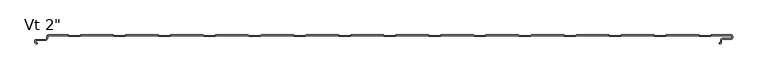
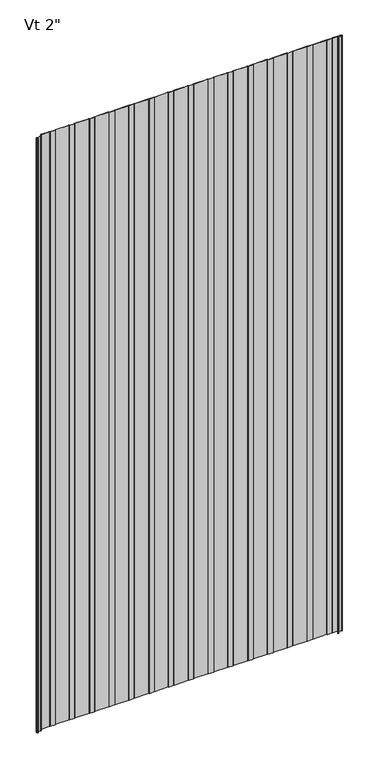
"""IFC4 building model written with IfcOpenShell, lengths in millimetres: plate geometry."""

from ifc_helpers import new_model, si_unit, frame, origin, place, context, project, spatial, polyline, circle_curve, source, transform, mapped, element, save
from ifc_brep_helpers import plane_surface, cylinder_surface, revolved_surface, advanced_brep


def plate_6ea44dff(model_context):
    return source(origin(), model_context, "Body", "AdvancedBrep", [
        advanced_brep(
        [(390.6883592, 0.0, 2400.0), (389.6158343, -1.1911595, 2400.0), (370.7177183, -1.1911595, 2400.0), (369.6451934, 0.0, 2400.0), (315.0657389, 0.0, 2400.0), (313.9932141, -1.1911595, 2400.0), (295.095098, -1.1911595, 2400.0), (294.0225732, 0.0, 2400.0), (239.4431186, 0.0, 2400.0), (238.3705938, -1.1911595, 2400.0), (219.4724778, -1.1911595, 2400.0), (218.3999529, 0.0, 2400.0), (163.8204984, 0.0, 2400.0), (162.7479735, -1.1911595, 2400.0), (143.8498575, -1.1911595, 2400.0), (142.7773327, 0.0, 2400.0), (88.1978781, 0.0, 2400.0), (87.1253533, -1.1911595, 2400.0), (68.2272372, -1.1911595, 2400.0), (67.1547124, 0.0, 2400.0), (12.5752578, 0.0, 2400.0), (11.502733, -1.1911595, 2400.0), (-7.395383, -1.1911595, 2400.0), (-8.4679079, 0.0, 2400.0), (-63.0473624, 0.0, 2400.0), (-64.1198873, -1.1911595, 2400.0), (-83.0180033, -1.1911595, 2400.0), (-84.0905281, 0.0, 2400.0), (-138.6699827, 0.0, 2400.0), (-139.7425075, -1.1911595, 2400.0), (-158.6406236, -1.1911595, 2400.0), (-159.7131484, 0.0, 2400.0), (-214.2926029, 0.0, 2400.0), (-215.3651278, -1.1911595, 2400.0), (-234.2632438, -1.1911595, 2400.0), (-235.3357687, 0.0, 2400.0), (-289.9152232, 0.0, 2400.0), (-290.987748, -1.1911595, 2400.0), (-309.8858641, -1.1911595, 2400.0), (-310.9583889, 0.0, 2400.0), (-365.5378435, 0.0, 2400.0), (-366.6103683, -1.1911595, 2400.0), (-385.5084844, -1.1911595, 2400.0), (-386.5810092, 0.0, 2400.0), (-441.1604637, 0.0, 2400.0), (-442.2329886, -1.1911595, 2400.0), (-461.1311046, -1.1911595, 2400.0), (-462.2036295, 0.0, 2400.0), (-516.783084, 0.0, 2400.0), (-517.8556088, -1.1911595, 2400.0), (-536.7537249, -1.1911595, 2400.0), (-537.8262497, 0.0, 2400.0), (-570.4352807, 0.0, 2400.0), (-573.4125474, -2.9772904, 2400.0), (-573.4125474, -5.2691742, 2400.0), (-576.3898159, -8.2464427, 2400.0), (-591.9862419, -8.2464427, 2400.0), (-593.5741185, -9.8343193, 2400.0), (-593.5741185, -12.905868, 2400.0), (-591.9862419, -14.4937445, 2400.0), (-589.6312064, -14.4937445, 2400.0), (-589.6312064, -13.4937445, 2400.0), (-591.9862419, -13.4937445, 2400.0), (-592.5741185, -12.905868, 2400.0), (-592.5741185, -9.8343193, 2400.0), (-591.9862419, -9.2464427, 2400.0), (-576.3898159, -9.2464427, 2400.0), (-572.4125474, -5.2691742, 2400.0), (-572.4125474, -2.9772904, 2400.0), (-570.43528, -1.0000218, 2400.0), (-538.268689, -1.0, 2400.0), (-537.1961642, -2.1911595, 2400.0), (-517.4131695, -2.1911595, 2400.0), (-516.3406447, -1.0, 2400.0), (-462.6460688, -1.0, 2400.0), (-461.5735439, -2.1911595, 2400.0), (-441.7905493, -2.1911595, 2400.0), (-440.7180244, -1.0, 2400.0), (-387.0234485, -1.0, 2400.0), (-385.9509237, -2.1911595, 2400.0), (-366.167929, -2.1911595, 2400.0), (-365.0954042, -1.0, 2400.0), (-311.4008282, -1.0, 2400.0), (-310.3283034, -2.1911595, 2400.0), (-290.5453087, -2.1911595, 2400.0), (-289.4727839, -1.0, 2400.0), (-235.778208, -1.0, 2400.0), (-234.7056831, -2.1911595, 2400.0), (-214.9226885, -2.1911595, 2400.0), (-213.8501636, -1.0, 2400.0), (-160.1555877, -1.0, 2400.0), (-159.0830629, -2.1911595, 2400.0), (-139.3000682, -2.1911595, 2400.0), (-138.2275434, -1.0, 2400.0), (-84.5329675, -1.0, 2400.0), (-83.4604426, -2.1911595, 2400.0), (-63.6774479, -2.1911595, 2400.0), (-62.6049231, -1.0, 2400.0), (-8.9103472, -1.0, 2400.0), (-7.8378224, -2.1911595, 2400.0), (11.9451723, -2.1911595, 2400.0), (13.0176972, -1.0, 2400.0), (66.7122731, -1.0, 2400.0), (67.7847979, -2.1911595, 2400.0), (87.5677926, -2.1911595, 2400.0), (88.6403174, -1.0, 2400.0), (142.3348933, -1.0, 2400.0), (143.4074182, -2.1911595, 2400.0), (163.1904129, -2.1911595, 2400.0), (164.2629377, -1.0, 2400.0), (217.9575136, -1.0, 2400.0), (219.0300384, -2.1911595, 2400.0), (238.8130331, -2.1911595, 2400.0), (239.885558, -1.0, 2400.0), (293.5801339, -1.0, 2400.0), (294.6526587, -2.1911595, 2400.0), (314.4356534, -2.1911595, 2400.0), (315.5081782, -1.0, 2400.0), (369.2027541, -1.0, 2400.0), (370.275279, -2.1911595, 2400.0), (390.0582736, -2.1911595, 2400.0), (391.1307985, -1.0, 2400.0), (444.8253744, -1.0, 2400.0), (445.8978992, -2.1911595, 2400.0), (465.6808939, -2.1911595, 2400.0), (466.7534187, -1.0, 2400.0), (520.4479947, -1.0, 2400.0), (521.5205195, -2.1911595, 2400.0), (541.3035142, -2.1911595, 2400.0), (542.3760351, -1.0000044, 2400.0), (574.5475652, -1.0000044, 2400.0), (576.5248337, -2.9772729, 2400.0), (576.5248337, -4.0193715, 2400.0), (574.5475652, -5.99664, 2400.0), (560.3591801, -5.99664, 2400.0), (557.7713036, -8.5845166, 2400.0), (557.7713037, -12.9049347, 2400.0), (557.1628365, -13.4939282, 2400.0), (554.7857432, -13.4939282, 2400.0), (554.7857432, -14.4934021, 2400.0), (557.1304042, -14.4934021, 2400.0), (558.7713037, -12.9049347, 2400.0), (558.7713036, -8.5845166, 2400.0), (560.3591801, -6.99664, 2400.0), (574.5475652, -6.99664, 2400.0), (577.5248337, -4.0193715, 2400.0), (577.5248337, -2.9772729, 2400.0), (574.5475652, -4.4e-06, 2400.0), (541.9335958, -4.4e-06, 2400.0), (540.8610749, -1.1911595, 2400.0), (521.9629588, -1.1911595, 2400.0), (520.890434, 0.0, 2400.0), (466.3109794, 0.0, 2400.0), (465.2384546, -1.1911595, 2400.0), (446.3403385, -1.1911595, 2400.0), (445.2678137, 0.0, 2400.0), (390.6883592, 0.0, 0.0), (445.2678137, 0.0, 0.0), (446.3403385, -1.1911595, 0.0), (465.2384546, -1.1911595, 0.0), (466.3109794, 0.0, 0.0), (520.890434, 0.0, 0.0), (521.9629588, -1.1911595, 0.0), (540.8610749, -1.1911595, 0.0), (541.9335958, -4.4e-06, 0.0), (574.5475652, -4.4e-06, 0.0), (577.5248337, -2.9772729, 0.0), (577.5248337, -4.0193715, 0.0), (574.5475652, -6.99664, 0.0), (560.3591801, -6.99664, 0.0), (558.7713036, -8.5845166, 0.0), (558.7713036, -12.9049347, 0.0), (557.1304042, -14.4934021, 0.0), (554.7857432, -14.4934021, 0.0), (554.7857432, -13.4939282, 0.0), (557.1628365, -13.4939282, 0.0), (557.7713037, -12.9049347, 0.0), (557.7713037, -8.5845166, 0.0), (560.3591801, -5.99664, 0.0), (574.5475652, -5.99664, 0.0), (576.5248337, -4.0193715, 0.0), (576.5248337, -2.9772729, 0.0), (574.5475652, -1.0000044, 0.0), (542.3760351, -1.0000044, 0.0), (541.3035142, -2.1911595, 0.0), (521.5205195, -2.1911595, 0.0), (520.4479947, -1.0, 0.0), (466.7534187, -1.0, 0.0), (465.6808939, -2.1911595, 0.0), (445.8978992, -2.1911595, 0.0), (444.8253744, -1.0, 0.0), (391.1307985, -1.0, 0.0), (390.0582736, -2.1911595, 0.0), (370.275279, -2.1911595, 0.0), (369.2027541, -1.0, 0.0), (315.5081782, -1.0, 0.0), (314.4356534, -2.1911595, 0.0), (294.6526587, -2.1911595, 0.0), (293.5801339, -1.0, 0.0), (239.885558, -1.0, 0.0), (238.8130331, -2.1911595, 0.0), (219.0300384, -2.1911595, 0.0), (217.9575136, -1.0, 0.0), (164.2629377, -1.0, 0.0), (163.1904129, -2.1911595, 0.0), (143.4074182, -2.1911595, 0.0), (142.3348933, -1.0, 0.0), (88.6403174, -1.0, 0.0), (87.5677926, -2.1911595, 0.0), (67.7847979, -2.1911595, 0.0), (66.7122731, -1.0, 0.0), (13.0176972, -1.0, 0.0), (11.9451723, -2.1911595, 0.0), (-7.8378224, -2.1911595, 0.0), (-8.9103472, -1.0, 0.0), (-62.6049231, -1.0, 0.0), (-63.6774479, -2.1911595, 0.0), (-83.4604426, -2.1911595, 0.0), (-84.5329675, -1.0, 0.0), (-138.2275434, -1.0, 0.0), (-139.3000682, -2.1911595, 0.0), (-159.0830629, -2.1911595, 0.0), (-160.1555877, -1.0, 0.0), (-213.8501636, -1.0, 0.0), (-214.9226885, -2.1911595, 0.0), (-234.7056831, -2.1911595, 0.0), (-235.778208, -1.0, 0.0), (-289.4727839, -1.0, 0.0), (-290.5453087, -2.1911595, 0.0), (-310.3283034, -2.1911595, 0.0), (-311.4008282, -1.0, 0.0), (-365.0954042, -1.0, 0.0), (-366.167929, -2.1911595, 0.0), (-385.9509237, -2.1911595, 0.0), (-387.0234485, -1.0, 0.0), (-440.7180244, -1.0, 0.0), (-441.7905493, -2.1911595, 0.0), (-461.5735439, -2.1911595, 0.0), (-462.6460688, -1.0, 0.0), (-516.3406447, -1.0, 0.0), (-517.4131695, -2.1911595, 0.0), (-537.1961642, -2.1911595, 0.0), (-538.268689, -1.0, 0.0), (-570.43528, -1.0, 0.0), (-572.4125474, -2.9772904, 0.0), (-572.4125474, -5.2691742, 0.0), (-576.3898159, -9.2464427, 0.0), (-591.9862419, -9.2464427, 0.0), (-592.5741185, -9.8343193, 0.0), (-592.5741185, -12.905868, 0.0), (-591.9862419, -13.4937445, 0.0), (-589.6312064, -13.4937445, 0.0), (-589.6312064, -14.4937445, 0.0), (-591.9862419, -14.4937445, 0.0), (-593.5741185, -12.905868, 0.0), (-593.5741185, -9.8343193, 0.0), (-591.9862419, -8.2464427, 0.0), (-576.3898159, -8.2464427, 0.0), (-573.4125474, -5.2691742, 0.0), (-573.4125474, -2.9772904, 0.0), (-570.4352807, -2.18e-05, 0.0), (-537.8262497, 0.0, 0.0), (-536.7537249, -1.1911595, 0.0), (-517.8556088, -1.1911595, 0.0), (-516.783084, 0.0, 0.0), (-462.2036295, 0.0, 0.0), (-461.1311046, -1.1911595, 0.0), (-442.2329886, -1.1911595, 0.0), (-441.1604637, 0.0, 0.0), (-386.5810092, 0.0, 0.0), (-385.5084844, -1.1911595, 0.0), (-366.6103683, -1.1911595, 0.0), (-365.5378435, 0.0, 0.0), (-310.9583889, 0.0, 0.0), (-309.8858641, -1.1911595, 0.0), (-290.987748, -1.1911595, 0.0), (-289.9152232, 0.0, 0.0), (-235.3357687, 0.0, 0.0), (-234.2632438, -1.1911595, 0.0), (-215.3651278, -1.1911595, 0.0), (-214.2926029, 0.0, 0.0), (-159.7131484, 0.0, 0.0), (-158.6406236, -1.1911595, 0.0), (-139.7425075, -1.1911595, 0.0), (-138.6699827, 0.0, 0.0), (-84.0905281, 0.0, 0.0), (-83.0180033, -1.1911595, 0.0), (-64.1198873, -1.1911595, 0.0), (-63.0473624, 0.0, 0.0), (-8.4679079, 0.0, 0.0), (-7.395383, -1.1911595, 0.0), (11.502733, -1.1911595, 0.0), (12.5752578, 0.0, 0.0), (67.1547124, 0.0, 0.0), (68.2272372, -1.1911595, 0.0), (87.1253533, -1.1911595, 0.0), (88.1978781, 0.0, 0.0), (142.7773327, 0.0, 0.0), (143.8498575, -1.1911595, 0.0), (162.7479735, -1.1911595, 0.0), (163.8204984, 0.0, 0.0), (218.3999529, 0.0, 0.0), (219.4724778, -1.1911595, 0.0), (238.3705938, -1.1911595, 0.0), (239.4431186, 0.0, 0.0), (294.0225732, 0.0, 0.0), (295.095098, -1.1911595, 0.0), (313.9932141, -1.1911595, 0.0), (315.0657389, 0.0, 0.0), (369.6451934, 0.0, 0.0), (370.7177183, -1.1911595, 0.0), (389.6158343, -1.1911595, 0.0)],
        [
            (0, 1),
            (1, 2),
            (2, 3),
            (3, 4),
            (4, 5),
            (5, 6),
            (6, 7),
            (7, 8),
            (8, 9),
            (9, 10),
            (10, 11),
            (11, 12),
            (12, 13),
            (13, 14),
            (14, 15),
            (15, 16),
            (16, 17),
            (17, 18),
            (18, 19),
            (19, 20),
            (20, 21),
            (21, 22),
            (22, 23),
            (23, 24),
            (24, 25),
            (25, 26),
            (26, 27),
            (27, 28),
            (28, 29),
            (29, 30),
            (30, 31),
            (31, 32),
            (32, 33),
            (33, 34),
            (34, 35),
            (35, 36),
            (36, 37),
            (37, 38),
            (38, 39),
            (39, 40),
            (40, 41),
            (41, 42),
            (42, 43),
            (43, 44),
            (44, 45),
            (45, 46),
            (46, 47),
            (47, 48),
            (48, 49),
            (49, 50),
            (50, 51),
            (51, 52),
            (52, 53, circle_curve(frame((-570.4352789, -2.9772904, 2400.0), z_axis=(0.0, 0.0, 1.0), x_axis=(0.0, 1.0, 0.0)), 2.9772685)),
            (53, 54),
            (54, 55, circle_curve(frame((-576.3898159, -5.2691742, 2400.0), z_axis=(0.0, 0.0, -1.0), x_axis=(0.0, 1.0, 0.0)), 2.9772685)),
            (55, 56),
            (56, 57, circle_curve(frame((-591.9862419, -9.8343193, 2400.0), z_axis=(0.0, 0.0, 1.0), x_axis=(0.0, 1.0, 0.0)), 1.5878765)),
            (57, 58),
            (58, 59, circle_curve(frame((-591.9862419, -12.905868, 2400.0), z_axis=(0.0, 0.0, 1.0), x_axis=(0.0, 1.0, 0.0)), 1.5878765)),
            (59, 60),
            (60, 61),
            (61, 62),
            (62, 63, circle_curve(frame((-591.9862419, -12.905868, 2400.0), z_axis=(0.0, 0.0, -1.0), x_axis=(0.0, 1.0, 0.0)), 0.5878765)),
            (63, 64),
            (64, 65, circle_curve(frame((-591.9862419, -9.8343193, 2400.0), z_axis=(0.0, 0.0, -1.0), x_axis=(0.0, 1.0, 0.0)), 0.5878765)),
            (65, 66),
            (66, 67, circle_curve(frame((-576.3898159, -5.2691742, 2400.0), z_axis=(0.0, 0.0, 1.0), x_axis=(0.0, 1.0, 0.0)), 3.9772685)),
            (67, 68),
            (68, 69, circle_curve(frame((-570.4352788, -2.9772904, 2400.0), z_axis=(0.0, 0.0, -1.0), x_axis=(0.0, 1.0, 0.0)), 1.9772685)),
            (69, 70),
            (70, 71),
            (71, 72),
            (72, 73),
            (73, 74),
            (74, 75),
            (75, 76),
            (76, 77),
            (77, 78),
            (78, 79),
            (79, 80),
            (80, 81),
            (81, 82),
            (82, 83),
            (83, 84),
            (84, 85),
            (85, 86),
            (86, 87),
            (87, 88),
            (88, 89),
            (89, 90),
            (90, 91),
            (91, 92),
            (92, 93),
            (93, 94),
            (94, 95),
            (95, 96),
            (96, 97),
            (97, 98),
            (98, 99),
            (99, 100),
            (100, 101),
            (101, 102),
            (102, 103),
            (103, 104),
            (104, 105),
            (105, 106),
            (106, 107),
            (107, 108),
            (108, 109),
            (109, 110),
            (110, 111),
            (111, 112),
            (112, 113),
            (113, 114),
            (114, 115),
            (115, 116),
            (116, 117),
            (117, 118),
            (118, 119),
            (119, 120),
            (120, 121),
            (121, 122),
            (122, 123),
            (123, 124),
            (124, 125),
            (125, 126),
            (126, 127),
            (127, 128),
            (128, 129),
            (129, 130),
            (130, 131, circle_curve(frame((574.5475652, -2.9772729, 2400.0), z_axis=(0.0, 0.0, -1.0), x_axis=(0.0, 1.0, 0.0)), 1.9772685)),
            (131, 132),
            (132, 133, circle_curve(frame((574.5475652, -4.0193715, 2400.0), z_axis=(0.0, 0.0, -1.0), x_axis=(0.0, 1.0, 0.0)), 1.9772685)),
            (133, 134),
            (134, 135, circle_curve(frame((560.3591801, -8.5845166, 2400.0), z_axis=(0.0, 0.0, 1.0), x_axis=(0.0, 1.0, 0.0)), 2.5878765)),
            (135, 136),
            (136, 137, circle_curve(frame((557.1819985, -12.9049347, 2400.0), z_axis=(0.0, 0.0, -1.0), x_axis=(0.0, 1.0, 0.0)), 0.5893052)),
            (137, 138),
            (138, 139),
            (139, 140),
            (140, 141, circle_curve(frame((557.1819985, -12.9049347, 2400.0), z_axis=(0.0, 0.0, 1.0), x_axis=(0.0, 1.0, 0.0)), 1.5893052)),
            (141, 142),
            (142, 143, circle_curve(frame((560.3591801, -8.5845166, 2400.0), z_axis=(0.0, 0.0, -1.0), x_axis=(0.0, 1.0, 0.0)), 1.5878765)),
            (143, 144),
            (144, 145, circle_curve(frame((574.5475652, -4.0193715, 2400.0), z_axis=(0.0, 0.0, 1.0), x_axis=(0.0, 1.0, 0.0)), 2.9772685)),
            (145, 146),
            (146, 147, circle_curve(frame((574.5475652, -2.9772729, 2400.0), z_axis=(0.0, 0.0, 1.0), x_axis=(0.0, 1.0, 0.0)), 2.9772685)),
            (147, 148),
            (148, 149),
            (149, 150),
            (150, 151),
            (151, 152),
            (152, 153),
            (153, 154),
            (154, 155),
            (155, 0),
            (156, 157),
            (157, 158),
            (158, 159),
            (159, 160),
            (160, 161),
            (161, 162),
            (162, 163),
            (163, 164),
            (164, 165),
            (165, 166, circle_curve(frame((574.5475652, -2.9772729, 0.0), z_axis=(0.0, 0.0, -1.0), x_axis=(0.0, 1.0, 0.0)), 2.9772685)),
            (166, 167),
            (167, 168, circle_curve(frame((574.5475652, -4.0193715, 0.0), z_axis=(0.0, 0.0, -1.0), x_axis=(0.0, 1.0, 0.0)), 2.9772685)),
            (168, 169),
            (169, 170, circle_curve(frame((560.3591801, -8.5845166, 0.0), z_axis=(0.0, 0.0, 1.0), x_axis=(0.0, 1.0, 0.0)), 1.5878765)),
            (170, 171),
            (171, 172, circle_curve(frame((557.1819985, -12.9049347, 0.0), z_axis=(0.0, 0.0, -1.0), x_axis=(0.0, 1.0, 0.0)), 1.5893052)),
            (172, 173),
            (173, 174),
            (174, 175),
            (175, 176, circle_curve(frame((557.1819985, -12.9049347, 0.0), z_axis=(0.0, 0.0, 1.0), x_axis=(0.0, 1.0, 0.0)), 0.5893052)),
            (176, 177),
            (177, 178, circle_curve(frame((560.3591801, -8.5845166, 0.0), z_axis=(0.0, 0.0, -1.0), x_axis=(0.0, 1.0, 0.0)), 2.5878765)),
            (178, 179),
            (179, 180, circle_curve(frame((574.5475652, -4.0193715, 0.0), z_axis=(0.0, 0.0, 1.0), x_axis=(0.0, 1.0, 0.0)), 1.9772685)),
            (180, 181),
            (181, 182, circle_curve(frame((574.5475652, -2.9772729, 0.0), z_axis=(0.0, 0.0, 1.0), x_axis=(0.0, 1.0, 0.0)), 1.9772685)),
            (182, 183),
            (183, 184),
            (184, 185),
            (185, 186),
            (186, 187),
            (187, 188),
            (188, 189),
            (189, 190),
            (190, 191),
            (191, 192),
            (192, 193),
            (193, 194),
            (194, 195),
            (195, 196),
            (196, 197),
            (197, 198),
            (198, 199),
            (199, 200),
            (200, 201),
            (201, 202),
            (202, 203),
            (203, 204),
            (204, 205),
            (205, 206),
            (206, 207),
            (207, 208),
            (208, 209),
            (209, 210),
            (210, 211),
            (211, 212),
            (212, 213),
            (213, 214),
            (214, 215),
            (215, 216),
            (216, 217),
            (217, 218),
            (218, 219),
            (219, 220),
            (220, 221),
            (221, 222),
            (222, 223),
            (223, 224),
            (224, 225),
            (225, 226),
            (226, 227),
            (227, 228),
            (228, 229),
            (229, 230),
            (230, 231),
            (231, 232),
            (232, 233),
            (233, 234),
            (234, 235),
            (235, 236),
            (236, 237),
            (237, 238),
            (238, 239),
            (239, 240),
            (240, 241),
            (241, 242),
            (242, 243),
            (243, 244, circle_curve(frame((-570.4352788, -2.9772904, 0.0), z_axis=(0.0, 0.0, 1.0), x_axis=(0.0, 1.0, 0.0)), 1.9772685)),
            (244, 245),
            (245, 246, circle_curve(frame((-576.3898159, -5.2691742, 0.0), z_axis=(0.0, 0.0, -1.0), x_axis=(0.0, 1.0, 0.0)), 3.9772685)),
            (246, 247),
            (247, 248, circle_curve(frame((-591.9862419, -9.8343193, 0.0), z_axis=(0.0, 0.0, 1.0), x_axis=(0.0, 1.0, 0.0)), 0.5878765)),
            (248, 249),
            (249, 250, circle_curve(frame((-591.9862419, -12.905868, 0.0), z_axis=(0.0, 0.0, 1.0), x_axis=(0.0, 1.0, 0.0)), 0.5878765)),
            (250, 251),
            (251, 252),
            (252, 253),
            (253, 254, circle_curve(frame((-591.9862419, -12.905868, 0.0), z_axis=(0.0, 0.0, -1.0), x_axis=(0.0, 1.0, 0.0)), 1.5878765)),
            (254, 255),
            (255, 256, circle_curve(frame((-591.9862419, -9.8343193, 0.0), z_axis=(0.0, 0.0, -1.0), x_axis=(0.0, 1.0, 0.0)), 1.5878765)),
            (256, 257),
            (257, 258, circle_curve(frame((-576.3898159, -5.2691742, 0.0), z_axis=(0.0, 0.0, 1.0), x_axis=(0.0, 1.0, 0.0)), 2.9772685)),
            (258, 259),
            (259, 260, circle_curve(frame((-570.4352789, -2.9772904, 0.0), z_axis=(0.0, 0.0, -1.0), x_axis=(0.0, 1.0, 0.0)), 2.9772685)),
            (260, 261),
            (261, 262),
            (262, 263),
            (263, 264),
            (264, 265),
            (265, 266),
            (266, 267),
            (267, 268),
            (268, 269),
            (269, 270),
            (270, 271),
            (271, 272),
            (272, 273),
            (273, 274),
            (274, 275),
            (275, 276),
            (276, 277),
            (277, 278),
            (278, 279),
            (279, 280),
            (280, 281),
            (281, 282),
            (282, 283),
            (283, 284),
            (284, 285),
            (285, 286),
            (286, 287),
            (287, 288),
            (288, 289),
            (289, 290),
            (290, 291),
            (291, 292),
            (292, 293),
            (293, 294),
            (294, 295),
            (295, 296),
            (296, 297),
            (297, 298),
            (298, 299),
            (299, 300),
            (300, 301),
            (301, 302),
            (302, 303),
            (303, 304),
            (304, 305),
            (305, 306),
            (306, 307),
            (307, 308),
            (308, 309),
            (309, 310),
            (310, 311),
            (311, 156),
            (155, 157),
            (156, 0),
            (154, 158),
            (153, 159),
            (152, 160),
            (151, 161),
            (150, 162),
            (149, 163),
            (148, 164),
            (147, 165),
            (146, 166),
            (145, 167),
            (144, 168),
            (143, 169),
            (142, 170),
            (141, 171),
            (140, 172),
            (139, 173),
            (138, 174),
            (137, 175),
            (136, 176),
            (135, 177),
            (134, 178),
            (133, 179),
            (132, 180),
            (131, 181),
            (130, 182),
            (129, 183),
            (128, 184),
            (127, 185),
            (126, 186),
            (125, 187),
            (124, 188),
            (123, 189),
            (122, 190),
            (121, 191),
            (120, 192),
            (119, 193),
            (118, 194),
            (117, 195),
            (116, 196),
            (115, 197),
            (114, 198),
            (113, 199),
            (112, 200),
            (111, 201),
            (110, 202),
            (109, 203),
            (108, 204),
            (107, 205),
            (106, 206),
            (105, 207),
            (104, 208),
            (103, 209),
            (102, 210),
            (101, 211),
            (100, 212),
            (99, 213),
            (98, 214),
            (97, 215),
            (96, 216),
            (95, 217),
            (94, 218),
            (93, 219),
            (92, 220),
            (91, 221),
            (90, 222),
            (89, 223),
            (88, 224),
            (87, 225),
            (86, 226),
            (85, 227),
            (84, 228),
            (83, 229),
            (82, 230),
            (81, 231),
            (80, 232),
            (79, 233),
            (78, 234),
            (77, 235),
            (76, 236),
            (75, 237),
            (74, 238),
            (73, 239),
            (72, 240),
            (71, 241),
            (70, 242),
            (69, 243),
            (68, 244),
            (67, 245),
            (66, 246),
            (65, 247),
            (64, 248),
            (63, 249),
            (62, 250),
            (61, 251),
            (60, 252),
            (59, 253),
            (58, 254),
            (57, 255),
            (56, 256),
            (55, 257),
            (54, 258),
            (53, 259),
            (52, 260),
            (51, 261),
            (50, 262),
            (49, 263),
            (48, 264),
            (47, 265),
            (46, 266),
            (45, 267),
            (44, 268),
            (43, 269),
            (42, 270),
            (41, 271),
            (40, 272),
            (39, 273),
            (38, 274),
            (37, 275),
            (36, 276),
            (35, 277),
            (34, 278),
            (33, 279),
            (32, 280),
            (31, 281),
            (30, 282),
            (29, 283),
            (28, 284),
            (27, 285),
            (26, 286),
            (25, 287),
            (24, 288),
            (23, 289),
            (22, 290),
            (21, 291),
            (20, 292),
            (19, 293),
            (18, 294),
            (17, 295),
            (16, 296),
            (15, 297),
            (14, 298),
            (13, 299),
            (12, 300),
            (11, 301),
            (10, 302),
            (9, 303),
            (8, 304),
            (7, 305),
            (6, 306),
            (5, 307),
            (4, 308),
            (3, 309),
            (2, 310),
            (1, 311),
        ],
        [
            plane_surface(frame((0.0, 0.0, 2400.0), z_axis=(0.0, 0.0, 1.0), x_axis=(0.0, 1.0, 0.0))),
            plane_surface(frame((0.0, 0.0, 0.0), z_axis=(0.0, 0.0, -1.0), x_axis=(0.0, 1.0, 0.0))),
            plane_surface(frame((390.6883592, 0.0, 2400.0), z_axis=(0.0, 1.0, 0.0), x_axis=(0.0, 0.0, -1.0))),
            plane_surface(frame((445.2678137, 0.0, 2400.0), z_axis=(0.7431448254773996, 0.6691306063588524, 0.0), x_axis=(0.0, 0.0, -1.0))),
            plane_surface(frame((446.3403385, -1.1911595, 2400.0), z_axis=(0.0, 1.0, 0.0), x_axis=(0.0, 0.0, -1.0))),
            plane_surface(frame((465.2384546, -1.1911595, 2400.0), z_axis=(-0.7431448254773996, 0.6691306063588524, 0.0), x_axis=(0.0, 0.0, -1.0))),
            plane_surface(frame((466.3109794, 0.0, 2400.0), z_axis=(0.0, 1.0, 0.0), x_axis=(0.0, 0.0, -1.0))),
            plane_surface(frame((520.890434, 0.0, 2400.0), z_axis=(0.7431448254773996, 0.6691306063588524, 0.0), x_axis=(0.0, 0.0, -1.0))),
            plane_surface(frame((521.9629588, -1.1911595, 2400.0), z_axis=(0.0, 1.0, 0.0), x_axis=(0.0, 0.0, -1.0))),
            plane_surface(frame((540.8610749, -1.1911595, 2400.0), z_axis=(-0.7431448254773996, 0.6691306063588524, 0.0), x_axis=(0.0, 0.0, -1.0))),
            plane_surface(frame((541.9335958, -4.4e-06, 2400.0), z_axis=(0.0, 1.0, 0.0), x_axis=(0.0, 0.0, -1.0))),
            cylinder_surface(frame((574.5475652, -2.9772729, 2400.0), z_axis=(0.0, 0.0, 1.0), x_axis=(0.0, 1.0, 0.0)), 2.9772685),
            plane_surface(frame((577.5248337, -2.9772729, 2400.0), z_axis=(1.0, 0.0, 0.0), x_axis=(0.0, 0.0, -1.0))),
            cylinder_surface(frame((574.5475652, -4.0193715, 2400.0), z_axis=(0.0, 0.0, 1.0), x_axis=(0.0, 1.0, 0.0)), 2.9772685),
            plane_surface(frame((574.5475652, -6.99664, 2400.0), z_axis=(0.0, -1.0, 0.0), x_axis=(0.0, 0.0, -1.0))),
            revolved_surface(polyline([(560.3591801, -6.9966401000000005, 0.0), (560.3591801, -6.9966401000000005, 2400.0)]), (560.3591801, -8.5845166, 2400.0), (0.0, 0.0, -1.0)),
            plane_surface(frame((558.7713036, -8.5845166, 2400.0), z_axis=(1.0, 0.0, 0.0), x_axis=(0.0, 0.0, -1.0))),
            cylinder_surface(frame((557.1819985, -12.9049347, 2400.0), z_axis=(0.0, 0.0, 1.0), x_axis=(0.0, 1.0, 0.0)), 1.5893052),
            plane_surface(frame((557.1304042, -14.4934021, 2400.0), z_axis=(0.0, -1.0, 0.0), x_axis=(0.0, 0.0, -1.0))),
            plane_surface(frame((554.7857432, -14.4934021, 2400.0), z_axis=(-1.0, 0.0, 0.0), x_axis=(0.0, 0.0, -1.0))),
            plane_surface(frame((554.7857432, -13.4939282, 2400.0), z_axis=(0.0, 1.0, 0.0), x_axis=(0.0, 0.0, -1.0))),
            revolved_surface(polyline([(557.1819985, -12.3156295, 0.0), (557.1819985, -12.3156295, 2400.0)]), (557.1819985, -12.9049347, 2400.0), (0.0, 0.0, -1.0)),
            plane_surface(frame((557.7713037, -12.9049347, 2400.0), z_axis=(-1.0, 0.0, 0.0), x_axis=(0.0, 0.0, -1.0))),
            cylinder_surface(frame((560.3591801, -8.5845166, 2400.0), z_axis=(0.0, 0.0, 1.0), x_axis=(0.0, 1.0, 0.0)), 2.5878765),
            plane_surface(frame((560.3591801, -5.99664, 2400.0), z_axis=(0.0, 1.0, 0.0), x_axis=(0.0, 0.0, -1.0))),
            revolved_surface(polyline([(574.5475652, -2.042103, 0.0), (574.5475652, -2.042103, 2400.0)]), (574.5475652, -4.0193715, 2400.0), (0.0, 0.0, -1.0)),
            plane_surface(frame((576.5248337, -4.0193715, 2400.0), z_axis=(-1.0, 0.0, 0.0), x_axis=(0.0, 0.0, -1.0))),
            revolved_surface(polyline([(574.5475652, -1.0000044, 0.0), (574.5475652, -1.0000044, 2400.0)]), (574.5475652, -2.9772729, 2400.0), (0.0, 0.0, -1.0)),
            plane_surface(frame((574.5475652, -1.0000044, 2400.0), z_axis=(0.0, -1.0, 0.0), x_axis=(0.0, 0.0, -1.0))),
            plane_surface(frame((542.3760351, -1.0000044, 2400.0), z_axis=(0.7431448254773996, -0.6691306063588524, 0.0), x_axis=(0.0, 0.0, -1.0))),
            plane_surface(frame((541.3035142, -2.1911595, 2400.0), z_axis=(0.0, -1.0, 0.0), x_axis=(0.0, 0.0, -1.0))),
            plane_surface(frame((521.5205195, -2.1911595, 2400.0), z_axis=(-0.7431448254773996, -0.6691306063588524, 0.0), x_axis=(0.0, 0.0, -1.0))),
            plane_surface(frame((520.4479947, -1.0, 2400.0), z_axis=(0.0, -1.0, 0.0), x_axis=(0.0, 0.0, -1.0))),
            plane_surface(frame((466.7534187, -1.0, 2400.0), z_axis=(0.7431448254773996, -0.6691306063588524, 0.0), x_axis=(0.0, 0.0, -1.0))),
            plane_surface(frame((465.6808939, -2.1911595, 2400.0), z_axis=(0.0, -1.0, 0.0), x_axis=(0.0, 0.0, -1.0))),
            plane_surface(frame((445.8978992, -2.1911595, 2400.0), z_axis=(-0.7431448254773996, -0.6691306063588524, 0.0), x_axis=(0.0, 0.0, -1.0))),
            plane_surface(frame((444.8253744, -1.0, 2400.0), z_axis=(0.0, -1.0, 0.0), x_axis=(0.0, 0.0, -1.0))),
            plane_surface(frame((391.1307985, -1.0, 2400.0), z_axis=(0.7431448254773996, -0.6691306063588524, 0.0), x_axis=(0.0, 0.0, -1.0))),
            plane_surface(frame((390.0582736, -2.1911595, 2400.0), z_axis=(0.0, -1.0, 0.0), x_axis=(0.0, 0.0, -1.0))),
            plane_surface(frame((370.275279, -2.1911595, 2400.0), z_axis=(-0.7431448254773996, -0.6691306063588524, 0.0), x_axis=(0.0, 0.0, -1.0))),
            plane_surface(frame((369.2027541, -1.0, 2400.0), z_axis=(0.0, -1.0, 0.0), x_axis=(0.0, 0.0, -1.0))),
            plane_surface(frame((315.5081782, -1.0, 2400.0), z_axis=(0.7431448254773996, -0.6691306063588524, 0.0), x_axis=(0.0, 0.0, -1.0))),
            plane_surface(frame((314.4356534, -2.1911595, 2400.0), z_axis=(0.0, -1.0, 0.0), x_axis=(0.0, 0.0, -1.0))),
            plane_surface(frame((294.6526587, -2.1911595, 2400.0), z_axis=(-0.7431448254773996, -0.6691306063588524, 0.0), x_axis=(0.0, 0.0, -1.0))),
            plane_surface(frame((293.5801339, -1.0, 2400.0), z_axis=(0.0, -1.0, 0.0), x_axis=(0.0, 0.0, -1.0))),
            plane_surface(frame((239.885558, -1.0, 2400.0), z_axis=(0.7431448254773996, -0.6691306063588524, 0.0), x_axis=(0.0, 0.0, -1.0))),
            plane_surface(frame((238.8130331, -2.1911595, 2400.0), z_axis=(0.0, -1.0, 0.0), x_axis=(0.0, 0.0, -1.0))),
            plane_surface(frame((219.0300384, -2.1911595, 2400.0), z_axis=(-0.7431448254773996, -0.6691306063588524, 0.0), x_axis=(0.0, 0.0, -1.0))),
            plane_surface(frame((217.9575136, -1.0, 2400.0), z_axis=(0.0, -1.0, 0.0), x_axis=(0.0, 0.0, -1.0))),
            plane_surface(frame((164.2629377, -1.0, 2400.0), z_axis=(0.7431448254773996, -0.6691306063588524, 0.0), x_axis=(0.0, 0.0, -1.0))),
            plane_surface(frame((163.1904129, -2.1911595, 2400.0), z_axis=(0.0, -1.0, 0.0), x_axis=(0.0, 0.0, -1.0))),
            plane_surface(frame((143.4074182, -2.1911595, 2400.0), z_axis=(-0.7431448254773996, -0.6691306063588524, 0.0), x_axis=(0.0, 0.0, -1.0))),
            plane_surface(frame((142.3348933, -1.0, 2400.0), z_axis=(0.0, -1.0, 0.0), x_axis=(0.0, 0.0, -1.0))),
            plane_surface(frame((88.6403174, -1.0, 2400.0), z_axis=(0.7431448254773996, -0.6691306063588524, 0.0), x_axis=(0.0, 0.0, -1.0))),
            plane_surface(frame((87.5677926, -2.1911595, 2400.0), z_axis=(0.0, -1.0, 0.0), x_axis=(0.0, 0.0, -1.0))),
            plane_surface(frame((67.7847979, -2.1911595, 2400.0), z_axis=(-0.7431448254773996, -0.6691306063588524, 0.0), x_axis=(0.0, 0.0, -1.0))),
            plane_surface(frame((66.7122731, -1.0, 2400.0), z_axis=(0.0, -1.0, 0.0), x_axis=(0.0, 0.0, -1.0))),
            plane_surface(frame((13.0176972, -1.0, 2400.0), z_axis=(0.7431448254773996, -0.6691306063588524, 0.0), x_axis=(0.0, 0.0, -1.0))),
            plane_surface(frame((11.9451723, -2.1911595, 2400.0), z_axis=(0.0, -1.0, 0.0), x_axis=(0.0, 0.0, -1.0))),
            plane_surface(frame((-7.8378224, -2.1911595, 2400.0), z_axis=(-0.7431448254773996, -0.6691306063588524, 0.0), x_axis=(0.0, 0.0, -1.0))),
            plane_surface(frame((-8.9103472, -1.0, 2400.0), z_axis=(0.0, -1.0, 0.0), x_axis=(0.0, 0.0, -1.0))),
            plane_surface(frame((-62.6049231, -1.0, 2400.0), z_axis=(0.7431448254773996, -0.6691306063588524, 0.0), x_axis=(0.0, 0.0, -1.0))),
            plane_surface(frame((-63.6774479, -2.1911595, 2400.0), z_axis=(0.0, -1.0, 0.0), x_axis=(0.0, 0.0, -1.0))),
            plane_surface(frame((-83.4604426, -2.1911595, 2400.0), z_axis=(-0.7431448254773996, -0.6691306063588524, 0.0), x_axis=(0.0, 0.0, -1.0))),
            plane_surface(frame((-84.5329675, -1.0, 2400.0), z_axis=(0.0, -1.0, 0.0), x_axis=(0.0, 0.0, -1.0))),
            plane_surface(frame((-138.2275434, -1.0, 2400.0), z_axis=(0.7431448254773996, -0.6691306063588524, 0.0), x_axis=(0.0, 0.0, -1.0))),
            plane_surface(frame((-139.3000682, -2.1911595, 2400.0), z_axis=(0.0, -1.0, 0.0), x_axis=(0.0, 0.0, -1.0))),
            plane_surface(frame((-159.0830629, -2.1911595, 2400.0), z_axis=(-0.7431448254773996, -0.6691306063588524, 0.0), x_axis=(0.0, 0.0, -1.0))),
            plane_surface(frame((-160.1555877, -1.0, 2400.0), z_axis=(0.0, -1.0, 0.0), x_axis=(0.0, 0.0, -1.0))),
            plane_surface(frame((-213.8501636, -1.0, 2400.0), z_axis=(0.7431448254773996, -0.6691306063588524, 0.0), x_axis=(0.0, 0.0, -1.0))),
            plane_surface(frame((-214.9226885, -2.1911595, 2400.0), z_axis=(0.0, -1.0, 0.0), x_axis=(0.0, 0.0, -1.0))),
            plane_surface(frame((-234.7056831, -2.1911595, 2400.0), z_axis=(-0.7431448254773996, -0.6691306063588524, 0.0), x_axis=(0.0, 0.0, -1.0))),
            plane_surface(frame((-235.778208, -1.0, 2400.0), z_axis=(0.0, -1.0, 0.0), x_axis=(0.0, 0.0, -1.0))),
            plane_surface(frame((-289.4727839, -1.0, 2400.0), z_axis=(0.7431448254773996, -0.6691306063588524, 0.0), x_axis=(0.0, 0.0, -1.0))),
            plane_surface(frame((-290.5453087, -2.1911595, 2400.0), z_axis=(0.0, -1.0, 0.0), x_axis=(0.0, 0.0, -1.0))),
            plane_surface(frame((-310.3283034, -2.1911595, 2400.0), z_axis=(-0.7431448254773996, -0.6691306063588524, 0.0), x_axis=(0.0, 0.0, -1.0))),
            plane_surface(frame((-311.4008282, -1.0, 2400.0), z_axis=(0.0, -1.0, 0.0), x_axis=(0.0, 0.0, -1.0))),
            plane_surface(frame((-365.0954042, -1.0, 2400.0), z_axis=(0.7431448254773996, -0.6691306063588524, 0.0), x_axis=(0.0, 0.0, -1.0))),
            plane_surface(frame((-366.167929, -2.1911595, 2400.0), z_axis=(0.0, -1.0, 0.0), x_axis=(0.0, 0.0, -1.0))),
            plane_surface(frame((-385.9509237, -2.1911595, 2400.0), z_axis=(-0.7431448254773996, -0.6691306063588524, 0.0), x_axis=(0.0, 0.0, -1.0))),
            plane_surface(frame((-387.0234485, -1.0, 2400.0), z_axis=(0.0, -1.0, 0.0), x_axis=(0.0, 0.0, -1.0))),
            plane_surface(frame((-440.7180244, -1.0, 2400.0), z_axis=(0.7431448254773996, -0.6691306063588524, 0.0), x_axis=(0.0, 0.0, -1.0))),
            plane_surface(frame((-441.7905493, -2.1911595, 2400.0), z_axis=(0.0, -1.0, 0.0), x_axis=(0.0, 0.0, -1.0))),
            plane_surface(frame((-461.5735439, -2.1911595, 2400.0), z_axis=(-0.7431448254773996, -0.6691306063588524, 0.0), x_axis=(0.0, 0.0, -1.0))),
            plane_surface(frame((-462.6460688, -1.0, 2400.0), z_axis=(0.0, -1.0, 0.0), x_axis=(0.0, 0.0, -1.0))),
            plane_surface(frame((-516.3406447, -1.0, 2400.0), z_axis=(0.7431448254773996, -0.6691306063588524, 0.0), x_axis=(0.0, 0.0, -1.0))),
            plane_surface(frame((-517.4131695, -2.1911595, 2400.0), z_axis=(0.0, -1.0, 0.0), x_axis=(0.0, 0.0, -1.0))),
            plane_surface(frame((-537.1961642, -2.1911595, 2400.0), z_axis=(-0.7431448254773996, -0.6691306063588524, 0.0), x_axis=(0.0, 0.0, -1.0))),
            plane_surface(frame((-538.268689, -1.0, 2400.0), z_axis=(0.0, -1.0, 0.0), x_axis=(0.0, 0.0, -1.0))),
            revolved_surface(polyline([(-570.4352788, -1.0000218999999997, 0.0), (-570.4352788, -1.0000218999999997, 2400.0)]), (-570.4352788, -2.9772904, 2400.0), (0.0, 0.0, -1.0)),
            plane_surface(frame((-572.4125474, -2.9772904, 2400.0), z_axis=(1.0, 0.0, 0.0), x_axis=(0.0, 0.0, -1.0))),
            cylinder_surface(frame((-576.3898159, -5.2691742, 2400.0), z_axis=(0.0, 0.0, 1.0), x_axis=(0.0, 1.0, 0.0)), 3.9772685),
            plane_surface(frame((-576.3898159, -9.2464427, 2400.0), z_axis=(0.0, -1.0, 0.0), x_axis=(0.0, 0.0, -1.0))),
            revolved_surface(polyline([(-591.9862419, -9.2464428, 0.0), (-591.9862419, -9.2464428, 2400.0)]), (-591.9862419, -9.8343193, 2400.0), (0.0, 0.0, -1.0)),
            plane_surface(frame((-592.5741185, -9.8343193, 2400.0), z_axis=(1.0, 0.0, 0.0), x_axis=(0.0, 0.0, -1.0))),
            revolved_surface(polyline([(-591.9862419, -12.3179915, 0.0), (-591.9862419, -12.3179915, 2400.0)]), (-591.9862419, -12.905868, 2400.0), (0.0, 0.0, -1.0)),
            plane_surface(frame((-591.9862419, -13.4937445, 2400.0), z_axis=(0.0, 1.0, 0.0), x_axis=(0.0, 0.0, -1.0))),
            plane_surface(frame((-589.6312064, -13.4937445, 2400.0), z_axis=(1.0, 0.0, 0.0), x_axis=(0.0, 0.0, -1.0))),
            plane_surface(frame((-589.6312064, -14.4937445, 2400.0), z_axis=(0.0, -1.0, 0.0), x_axis=(0.0, 0.0, -1.0))),
            cylinder_surface(frame((-591.9862419, -12.905868, 2400.0), z_axis=(0.0, 0.0, 1.0), x_axis=(0.0, 1.0, 0.0)), 1.5878765),
            plane_surface(frame((-593.5741185, -12.905868, 2400.0), z_axis=(-1.0, 0.0, 0.0), x_axis=(0.0, 0.0, -1.0))),
            cylinder_surface(frame((-591.9862419, -9.8343193, 2400.0), z_axis=(0.0, 0.0, 1.0), x_axis=(0.0, 1.0, 0.0)), 1.5878765),
            plane_surface(frame((-591.9862419, -8.2464427, 2400.0), z_axis=(0.0, 1.0, 0.0), x_axis=(0.0, 0.0, -1.0))),
            revolved_surface(polyline([(-576.3898159, -2.2919057, 0.0), (-576.3898159, -2.2919057, 2400.0)]), (-576.3898159, -5.2691742, 2400.0), (0.0, 0.0, -1.0)),
            plane_surface(frame((-573.4125474, -5.2691742, 2400.0), z_axis=(-1.0, 0.0, 0.0), x_axis=(0.0, 0.0, -1.0))),
            cylinder_surface(frame((-570.4352789, -2.9772904, 2400.0), z_axis=(0.0, 0.0, 1.0), x_axis=(0.0, 1.0, 0.0)), 2.9772685),
            plane_surface(frame((-570.4352807, 0.0, 2400.0), z_axis=(0.0, 1.0, 0.0), x_axis=(0.0, 0.0, -1.0))),
            plane_surface(frame((-537.8262497, 0.0, 2400.0), z_axis=(0.7431448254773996, 0.6691306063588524, 0.0), x_axis=(0.0, 0.0, -1.0))),
            plane_surface(frame((-536.7537249, -1.1911595, 2400.0), z_axis=(0.0, 1.0, 0.0), x_axis=(0.0, 0.0, -1.0))),
            plane_surface(frame((-517.8556088, -1.1911595, 2400.0), z_axis=(-0.7431448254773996, 0.6691306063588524, 0.0), x_axis=(0.0, 0.0, -1.0))),
            plane_surface(frame((-516.783084, 0.0, 2400.0), z_axis=(0.0, 1.0, 0.0), x_axis=(0.0, 0.0, -1.0))),
            plane_surface(frame((-462.2036295, 0.0, 2400.0), z_axis=(0.7431448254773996, 0.6691306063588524, 0.0), x_axis=(0.0, 0.0, -1.0))),
            plane_surface(frame((-461.1311046, -1.1911595, 2400.0), z_axis=(0.0, 1.0, 0.0), x_axis=(0.0, 0.0, -1.0))),
            plane_surface(frame((-442.2329886, -1.1911595, 2400.0), z_axis=(-0.7431448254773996, 0.6691306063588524, 0.0), x_axis=(0.0, 0.0, -1.0))),
            plane_surface(frame((-441.1604637, 0.0, 2400.0), z_axis=(0.0, 1.0, 0.0), x_axis=(0.0, 0.0, -1.0))),
            plane_surface(frame((-386.5810092, 0.0, 2400.0), z_axis=(0.7431448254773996, 0.6691306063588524, 0.0), x_axis=(0.0, 0.0, -1.0))),
            plane_surface(frame((-385.5084844, -1.1911595, 2400.0), z_axis=(0.0, 1.0, 0.0), x_axis=(0.0, 0.0, -1.0))),
            plane_surface(frame((-366.6103683, -1.1911595, 2400.0), z_axis=(-0.7431448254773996, 0.6691306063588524, 0.0), x_axis=(0.0, 0.0, -1.0))),
            plane_surface(frame((-365.5378435, 0.0, 2400.0), z_axis=(0.0, 1.0, 0.0), x_axis=(0.0, 0.0, -1.0))),
            plane_surface(frame((-310.9583889, 0.0, 2400.0), z_axis=(0.7431448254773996, 0.6691306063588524, 0.0), x_axis=(0.0, 0.0, -1.0))),
            plane_surface(frame((-309.8858641, -1.1911595, 2400.0), z_axis=(0.0, 1.0, 0.0), x_axis=(0.0, 0.0, -1.0))),
            plane_surface(frame((-290.987748, -1.1911595, 2400.0), z_axis=(-0.7431448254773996, 0.6691306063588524, 0.0), x_axis=(0.0, 0.0, -1.0))),
            plane_surface(frame((-289.9152232, 0.0, 2400.0), z_axis=(0.0, 1.0, 0.0), x_axis=(0.0, 0.0, -1.0))),
            plane_surface(frame((-235.3357687, 0.0, 2400.0), z_axis=(0.7431448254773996, 0.6691306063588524, 0.0), x_axis=(0.0, 0.0, -1.0))),
            plane_surface(frame((-234.2632438, -1.1911595, 2400.0), z_axis=(0.0, 1.0, 0.0), x_axis=(0.0, 0.0, -1.0))),
            plane_surface(frame((-215.3651278, -1.1911595, 2400.0), z_axis=(-0.7431448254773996, 0.6691306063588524, 0.0), x_axis=(0.0, 0.0, -1.0))),
            plane_surface(frame((-214.2926029, 0.0, 2400.0), z_axis=(0.0, 1.0, 0.0), x_axis=(0.0, 0.0, -1.0))),
            plane_surface(frame((-159.7131484, 0.0, 2400.0), z_axis=(0.7431448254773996, 0.6691306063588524, 0.0), x_axis=(0.0, 0.0, -1.0))),
            plane_surface(frame((-158.6406236, -1.1911595, 2400.0), z_axis=(0.0, 1.0, 0.0), x_axis=(0.0, 0.0, -1.0))),
            plane_surface(frame((-139.7425075, -1.1911595, 2400.0), z_axis=(-0.7431448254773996, 0.6691306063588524, 0.0), x_axis=(0.0, 0.0, -1.0))),
            plane_surface(frame((-138.6699827, 0.0, 2400.0), z_axis=(0.0, 1.0, 0.0), x_axis=(0.0, 0.0, -1.0))),
            plane_surface(frame((-84.0905281, 0.0, 2400.0), z_axis=(0.7431448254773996, 0.6691306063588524, 0.0), x_axis=(0.0, 0.0, -1.0))),
            plane_surface(frame((-83.0180033, -1.1911595, 2400.0), z_axis=(0.0, 1.0, 0.0), x_axis=(0.0, 0.0, -1.0))),
            plane_surface(frame((-64.1198873, -1.1911595, 2400.0), z_axis=(-0.7431448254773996, 0.6691306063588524, 0.0), x_axis=(0.0, 0.0, -1.0))),
            plane_surface(frame((-63.0473624, 0.0, 2400.0), z_axis=(0.0, 1.0, 0.0), x_axis=(0.0, 0.0, -1.0))),
            plane_surface(frame((-8.4679079, 0.0, 2400.0), z_axis=(0.7431448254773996, 0.6691306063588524, 0.0), x_axis=(0.0, 0.0, -1.0))),
            plane_surface(frame((-7.395383, -1.1911595, 2400.0), z_axis=(0.0, 1.0, 0.0), x_axis=(0.0, 0.0, -1.0))),
            plane_surface(frame((11.502733, -1.1911595, 2400.0), z_axis=(-0.7431448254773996, 0.6691306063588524, 0.0), x_axis=(0.0, 0.0, -1.0))),
            plane_surface(frame((12.5752578, 0.0, 2400.0), z_axis=(0.0, 1.0, 0.0), x_axis=(0.0, 0.0, -1.0))),
            plane_surface(frame((67.1547124, 0.0, 2400.0), z_axis=(0.7431448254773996, 0.6691306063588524, 0.0), x_axis=(0.0, 0.0, -1.0))),
            plane_surface(frame((68.2272372, -1.1911595, 2400.0), z_axis=(0.0, 1.0, 0.0), x_axis=(0.0, 0.0, -1.0))),
            plane_surface(frame((87.1253533, -1.1911595, 2400.0), z_axis=(-0.7431448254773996, 0.6691306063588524, 0.0), x_axis=(0.0, 0.0, -1.0))),
            plane_surface(frame((88.1978781, 0.0, 2400.0), z_axis=(0.0, 1.0, 0.0), x_axis=(0.0, 0.0, -1.0))),
            plane_surface(frame((142.7773327, 0.0, 2400.0), z_axis=(0.7431448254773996, 0.6691306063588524, 0.0), x_axis=(0.0, 0.0, -1.0))),
            plane_surface(frame((143.8498575, -1.1911595, 2400.0), z_axis=(0.0, 1.0, 0.0), x_axis=(0.0, 0.0, -1.0))),
            plane_surface(frame((162.7479735, -1.1911595, 2400.0), z_axis=(-0.7431448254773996, 0.6691306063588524, 0.0), x_axis=(0.0, 0.0, -1.0))),
            plane_surface(frame((163.8204984, 0.0, 2400.0), z_axis=(0.0, 1.0, 0.0), x_axis=(0.0, 0.0, -1.0))),
            plane_surface(frame((218.3999529, 0.0, 2400.0), z_axis=(0.7431448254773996, 0.6691306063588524, 0.0), x_axis=(0.0, 0.0, -1.0))),
            plane_surface(frame((219.4724778, -1.1911595, 2400.0), z_axis=(0.0, 1.0, 0.0), x_axis=(0.0, 0.0, -1.0))),
            plane_surface(frame((238.3705938, -1.1911595, 2400.0), z_axis=(-0.7431448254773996, 0.6691306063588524, 0.0), x_axis=(0.0, 0.0, -1.0))),
            plane_surface(frame((239.4431186, 0.0, 2400.0), z_axis=(0.0, 1.0, 0.0), x_axis=(0.0, 0.0, -1.0))),
            plane_surface(frame((294.0225732, 0.0, 2400.0), z_axis=(0.7431448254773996, 0.6691306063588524, 0.0), x_axis=(0.0, 0.0, -1.0))),
            plane_surface(frame((295.095098, -1.1911595, 2400.0), z_axis=(0.0, 1.0, 0.0), x_axis=(0.0, 0.0, -1.0))),
            plane_surface(frame((313.9932141, -1.1911595, 2400.0), z_axis=(-0.7431448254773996, 0.6691306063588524, 0.0), x_axis=(0.0, 0.0, -1.0))),
            plane_surface(frame((315.0657389, 0.0, 2400.0), z_axis=(0.0, 1.0, 0.0), x_axis=(0.0, 0.0, -1.0))),
            plane_surface(frame((369.6451934, 0.0, 2400.0), z_axis=(0.7431448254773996, 0.6691306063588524, 0.0), x_axis=(0.0, 0.0, -1.0))),
            plane_surface(frame((370.7177183, -1.1911595, 2400.0), z_axis=(0.0, 1.0, 0.0), x_axis=(0.0, 0.0, -1.0))),
            plane_surface(frame((389.6158343, -1.1911595, 2400.0), z_axis=(-0.7431448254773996, 0.6691306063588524, 0.0), x_axis=(0.0, 0.0, -1.0))),
        ],
        [
            (0, [[1, 2, 3, 4, 5, 6, 7, 8, 9, 10, 11, 12, 13, 14, 15, 16, 17, 18, 19, 20, 21, 22, 23, 24, 25, 26, 27, 28, 29, 30, 31, 32, 33, 34, 35, 36, 37, 38, 39, 40, 41, 42, 43, 44, 45, 46, 47, 48, 49, 50, 51, 52, 53, 54, 55, 56, 57, 58, 59, 60, 61, 62, 63, 64, 65, 66, 67, 68, 69, 70, 71, 72, 73, 74, 75, 76, 77, 78, 79, 80, 81, 82, 83, 84, 85, 86, 87, 88, 89, 90, 91, 92, 93, 94, 95, 96, 97, 98, 99, 100, 101, 102, 103, 104, 105, 106, 107, 108, 109, 110, 111, 112, 113, 114, 115, 116, 117, 118, 119, 120, 121, 122, 123, 124, 125, 126, 127, 128, 129, 130, 131, 132, 133, 134, 135, 136, 137, 138, 139, 140, 141, 142, 143, 144, 145, 146, 147, 148, 149, 150, 151, 152, 153, 154, 155, 156]]),
            (1, [[157, 158, 159, 160, 161, 162, 163, 164, 165, 166, 167, 168, 169, 170, 171, 172, 173, 174, 175, 176, 177, 178, 179, 180, 181, 182, 183, 184, 185, 186, 187, 188, 189, 190, 191, 192, 193, 194, 195, 196, 197, 198, 199, 200, 201, 202, 203, 204, 205, 206, 207, 208, 209, 210, 211, 212, 213, 214, 215, 216, 217, 218, 219, 220, 221, 222, 223, 224, 225, 226, 227, 228, 229, 230, 231, 232, 233, 234, 235, 236, 237, 238, 239, 240, 241, 242, 243, 244, 245, 246, 247, 248, 249, 250, 251, 252, 253, 254, 255, 256, 257, 258, 259, 260, 261, 262, 263, 264, 265, 266, 267, 268, 269, 270, 271, 272, 273, 274, 275, 276, 277, 278, 279, 280, 281, 282, 283, 284, 285, 286, 287, 288, 289, 290, 291, 292, 293, 294, 295, 296, 297, 298, 299, 300, 301, 302, 303, 304, 305, 306, 307, 308, 309, 310, 311, 312]]),
            (2, [[313, -157, 314, -156]]),
            (3, [[315, -158, -313, -155]]),
            (4, [[316, -159, -315, -154]]),
            (5, [[317, -160, -316, -153]]),
            (6, [[318, -161, -317, -152]]),
            (7, [[319, -162, -318, -151]]),
            (8, [[320, -163, -319, -150]]),
            (9, [[321, -164, -320, -149]]),
            (10, [[322, -165, -321, -148]]),
            (11, [[323, -166, -322, -147]]),
            (12, [[324, -167, -323, -146]]),
            (13, [[325, -168, -324, -145]]),
            (14, [[326, -169, -325, -144]]),
            (15, [[327, -170, -326, -143]]),
            (16, [[328, -171, -327, -142]]),
            (17, [[329, -172, -328, -141]]),
            (18, [[330, -173, -329, -140]]),
            (19, [[331, -174, -330, -139]]),
            (20, [[332, -175, -331, -138]]),
            (21, [[333, -176, -332, -137]]),
            (22, [[334, -177, -333, -136]]),
            (23, [[335, -178, -334, -135]]),
            (24, [[336, -179, -335, -134]]),
            (25, [[337, -180, -336, -133]]),
            (26, [[338, -181, -337, -132]]),
            (27, [[339, -182, -338, -131]]),
            (28, [[340, -183, -339, -130]]),
            (29, [[341, -184, -340, -129]]),
            (30, [[342, -185, -341, -128]]),
            (31, [[343, -186, -342, -127]]),
            (32, [[344, -187, -343, -126]]),
            (33, [[345, -188, -344, -125]]),
            (34, [[346, -189, -345, -124]]),
            (35, [[347, -190, -346, -123]]),
            (36, [[348, -191, -347, -122]]),
            (37, [[349, -192, -348, -121]]),
            (38, [[350, -193, -349, -120]]),
            (39, [[351, -194, -350, -119]]),
            (40, [[352, -195, -351, -118]]),
            (41, [[353, -196, -352, -117]]),
            (42, [[354, -197, -353, -116]]),
            (43, [[355, -198, -354, -115]]),
            (44, [[356, -199, -355, -114]]),
            (45, [[357, -200, -356, -113]]),
            (46, [[358, -201, -357, -112]]),
            (47, [[359, -202, -358, -111]]),
            (48, [[360, -203, -359, -110]]),
            (49, [[361, -204, -360, -109]]),
            (50, [[362, -205, -361, -108]]),
            (51, [[363, -206, -362, -107]]),
            (52, [[364, -207, -363, -106]]),
            (53, [[365, -208, -364, -105]]),
            (54, [[366, -209, -365, -104]]),
            (55, [[367, -210, -366, -103]]),
            (56, [[368, -211, -367, -102]]),
            (57, [[369, -212, -368, -101]]),
            (58, [[370, -213, -369, -100]]),
            (59, [[371, -214, -370, -99]]),
            (60, [[372, -215, -371, -98]]),
            (61, [[373, -216, -372, -97]]),
            (62, [[374, -217, -373, -96]]),
            (63, [[375, -218, -374, -95]]),
            (64, [[376, -219, -375, -94]]),
            (65, [[377, -220, -376, -93]]),
            (66, [[378, -221, -377, -92]]),
            (67, [[379, -222, -378, -91]]),
            (68, [[380, -223, -379, -90]]),
            (69, [[381, -224, -380, -89]]),
            (70, [[382, -225, -381, -88]]),
            (71, [[383, -226, -382, -87]]),
            (72, [[384, -227, -383, -86]]),
            (73, [[385, -228, -384, -85]]),
            (74, [[386, -229, -385, -84]]),
            (75, [[387, -230, -386, -83]]),
            (76, [[388, -231, -387, -82]]),
            (77, [[389, -232, -388, -81]]),
            (78, [[390, -233, -389, -80]]),
            (79, [[391, -234, -390, -79]]),
            (80, [[392, -235, -391, -78]]),
            (81, [[393, -236, -392, -77]]),
            (82, [[394, -237, -393, -76]]),
            (83, [[395, -238, -394, -75]]),
            (84, [[396, -239, -395, -74]]),
            (85, [[397, -240, -396, -73]]),
            (86, [[398, -241, -397, -72]]),
            (87, [[399, -242, -398, -71]]),
            (88, [[400, -243, -399, -70]]),
            (89, [[401, -244, -400, -69]]),
            (90, [[402, -245, -401, -68]]),
            (91, [[403, -246, -402, -67]]),
            (92, [[404, -247, -403, -66]]),
            (93, [[405, -248, -404, -65]]),
            (94, [[406, -249, -405, -64]]),
            (95, [[407, -250, -406, -63]]),
            (96, [[408, -251, -407, -62]]),
            (97, [[409, -252, -408, -61]]),
            (98, [[410, -253, -409, -60]]),
            (99, [[411, -254, -410, -59]]),
            (100, [[412, -255, -411, -58]]),
            (101, [[413, -256, -412, -57]]),
            (102, [[414, -257, -413, -56]]),
            (103, [[415, -258, -414, -55]]),
            (104, [[416, -259, -415, -54]]),
            (105, [[417, -260, -416, -53]]),
            (106, [[418, -261, -417, -52]]),
            (107, [[419, -262, -418, -51]]),
            (108, [[420, -263, -419, -50]]),
            (109, [[421, -264, -420, -49]]),
            (110, [[422, -265, -421, -48]]),
            (111, [[423, -266, -422, -47]]),
            (112, [[424, -267, -423, -46]]),
            (113, [[425, -268, -424, -45]]),
            (114, [[426, -269, -425, -44]]),
            (115, [[427, -270, -426, -43]]),
            (116, [[428, -271, -427, -42]]),
            (117, [[429, -272, -428, -41]]),
            (118, [[430, -273, -429, -40]]),
            (119, [[431, -274, -430, -39]]),
            (120, [[432, -275, -431, -38]]),
            (121, [[433, -276, -432, -37]]),
            (122, [[434, -277, -433, -36]]),
            (123, [[435, -278, -434, -35]]),
            (124, [[436, -279, -435, -34]]),
            (125, [[437, -280, -436, -33]]),
            (126, [[438, -281, -437, -32]]),
            (127, [[439, -282, -438, -31]]),
            (128, [[440, -283, -439, -30]]),
            (129, [[441, -284, -440, -29]]),
            (130, [[442, -285, -441, -28]]),
            (131, [[443, -286, -442, -27]]),
            (132, [[444, -287, -443, -26]]),
            (133, [[445, -288, -444, -25]]),
            (134, [[446, -289, -445, -24]]),
            (135, [[447, -290, -446, -23]]),
            (136, [[448, -291, -447, -22]]),
            (137, [[449, -292, -448, -21]]),
            (138, [[450, -293, -449, -20]]),
            (139, [[451, -294, -450, -19]]),
            (140, [[452, -295, -451, -18]]),
            (141, [[453, -296, -452, -17]]),
            (142, [[454, -297, -453, -16]]),
            (143, [[455, -298, -454, -15]]),
            (144, [[456, -299, -455, -14]]),
            (145, [[457, -300, -456, -13]]),
            (146, [[458, -301, -457, -12]]),
            (147, [[459, -302, -458, -11]]),
            (148, [[460, -303, -459, -10]]),
            (149, [[461, -304, -460, -9]]),
            (150, [[462, -305, -461, -8]]),
            (151, [[463, -306, -462, -7]]),
            (152, [[464, -307, -463, -6]]),
            (153, [[465, -308, -464, -5]]),
            (154, [[466, -309, -465, -4]]),
            (155, [[467, -310, -466, -3]]),
            (156, [[468, -311, -467, -2]]),
            (157, [[-314, -312, -468, -1]]),
        ],
    ),
    ])


if __name__ == "__main__":
    model = new_model("IFC4")
    model_context = context("Model", 3, world=origin())
    ifc_project = project(units=[si_unit("LENGTHUNIT", "METRE", prefix="MILLI")], contexts=[model_context])
    site = spatial("IfcSite", under=ifc_project)
    building = spatial("IfcBuilding", under=site)
    placement = place(None, origin())
    plate_shape = plate_6ea44dff(model_context)
    element("IfcPlate", 1, ObjectType="KIP-SLI-FLI-R19-CP-Vt-FL_SL : Vt 2\"", at=placement, inside=building, context=model_context, shape_type="MappedRepresentation", body=[
        mapped(plate_shape, transform((0.0, 0.0, 0.0), x_axis=(1.0, 0.0, 0.0), y_axis=(0.0, 1.0, 0.0), z_axis=(0.0, 0.0, 1.0))),
    ])
    save(model, "model.ifc")
